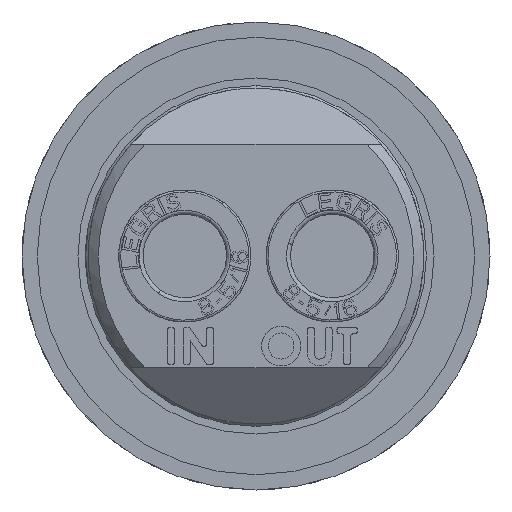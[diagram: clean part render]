
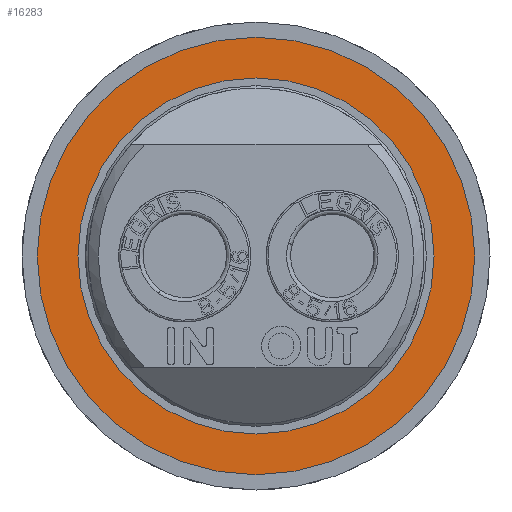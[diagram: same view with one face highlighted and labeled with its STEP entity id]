
A CAD part, front view. The second image highlights one B-rep face of the part: STEP entity #16283.
In plain terms, the highlighted planar face has unit normal (0, -1, 0).
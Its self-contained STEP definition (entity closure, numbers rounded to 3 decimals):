
#1515 = CARTESIAN_POINT ( 'NONE',  ( 0., 2., -21.5 ) ) ;
#1517 = DIRECTION ( 'NONE',  ( 0., -1., 0. ) ) ;
#1518 = DIRECTION ( 'NONE',  ( 0., -1., 0. ) ) ;
#1550 = DIRECTION ( 'NONE',  ( 0., 0., -1. ) ) ;
#1551 = DIRECTION ( 'NONE',  ( 0., 0., -1. ) ) ;
#1614 = CARTESIAN_POINT ( 'NONE',  ( 0., 2., 0. ) ) ;
#1620 = CARTESIAN_POINT ( 'NONE',  ( 0., 2., 21.5 ) ) ;
#1638 = CARTESIAN_POINT ( 'NONE',  ( 0., 2., 0. ) ) ;
#1665 = CARTESIAN_POINT ( 'NONE',  ( 0., 2., -17.5 ) ) ;
#3786 = EDGE_CURVE ( 'NONE', #5467, #4470, #11922, .T. ) ;
#3787 = EDGE_CURVE ( 'NONE', #4465, #4588, #11928, .T. ) ;
#4465 = VERTEX_POINT ( 'NONE', #1515 ) ;
#4470 = VERTEX_POINT ( 'NONE', #1665 ) ;
#4588 = VERTEX_POINT ( 'NONE', #1620 ) ;
#4677 = ORIENTED_EDGE ( 'NONE', *, *, #17058, .T. ) ;
#5151 = EDGE_LOOP ( 'NONE', ( #5239, #5291 ) ) ;
#5239 = ORIENTED_EDGE ( 'NONE', *, *, #16864, .F. ) ;
#5277 = EDGE_LOOP ( 'NONE', ( #9556, #4677 ) ) ;
#5291 = ORIENTED_EDGE ( 'NONE', *, *, #3786, .F. ) ;
#5467 = VERTEX_POINT ( 'NONE', #14534 ) ;
#5946 = DIRECTION ( 'NONE',  ( 0., 0., 1. ) ) ;
#5947 = DIRECTION ( 'NONE',  ( 0., 1., 0. ) ) ;
#5952 = PLANE ( 'NONE',  #16689 ) ;
#5953 = CARTESIAN_POINT ( 'NONE',  ( -21.5, 2., 0. ) ) ;
#6642 = CIRCLE ( 'NONE', #16613, 17.5 ) ;
#6827 = CIRCLE ( 'NONE', #16579, 21.5 ) ;
#8644 = AXIS2_PLACEMENT_3D ( 'NONE', #1614, #1518, #1551 ) ;
#8646 = AXIS2_PLACEMENT_3D ( 'NONE', #1638, #1517, #1550 ) ;
#9556 = ORIENTED_EDGE ( 'NONE', *, *, #3787, .T. ) ;
#10699 = DIRECTION ( 'NONE',  ( 0., 0., -1. ) ) ;
#10701 = DIRECTION ( 'NONE',  ( 0., -1., 0. ) ) ;
#10702 = CARTESIAN_POINT ( 'NONE',  ( 0., 2., 0. ) ) ;
#11922 = CIRCLE ( 'NONE', #8644, 17.5 ) ;
#11928 = CIRCLE ( 'NONE', #8646, 21.5 ) ;
#14534 = CARTESIAN_POINT ( 'NONE',  ( 0., 2., 17.5 ) ) ;
#15509 = FACE_OUTER_BOUND ( 'NONE', #5277, .T. ) ;
#15514 = FACE_BOUND ( 'NONE', #5151, .T. ) ;
#15925 = DIRECTION ( 'NONE',  ( 0., 0., -1. ) ) ;
#15929 = CARTESIAN_POINT ( 'NONE',  ( 0., 2., 0. ) ) ;
#15934 = DIRECTION ( 'NONE',  ( 0., -1., 0. ) ) ;
#16283 = ADVANCED_FACE ( 'NONE', ( #15514, #15509 ), #5952, .F. ) ;
#16579 = AXIS2_PLACEMENT_3D ( 'NONE', #15929, #15934, #15925 ) ;
#16613 = AXIS2_PLACEMENT_3D ( 'NONE', #10702, #10701, #10699 ) ;
#16689 = AXIS2_PLACEMENT_3D ( 'NONE', #5953, #5947, #5946 ) ;
#16864 = EDGE_CURVE ( 'NONE', #4470, #5467, #6642, .T. ) ;
#17058 = EDGE_CURVE ( 'NONE', #4588, #4465, #6827, .T. ) ;
